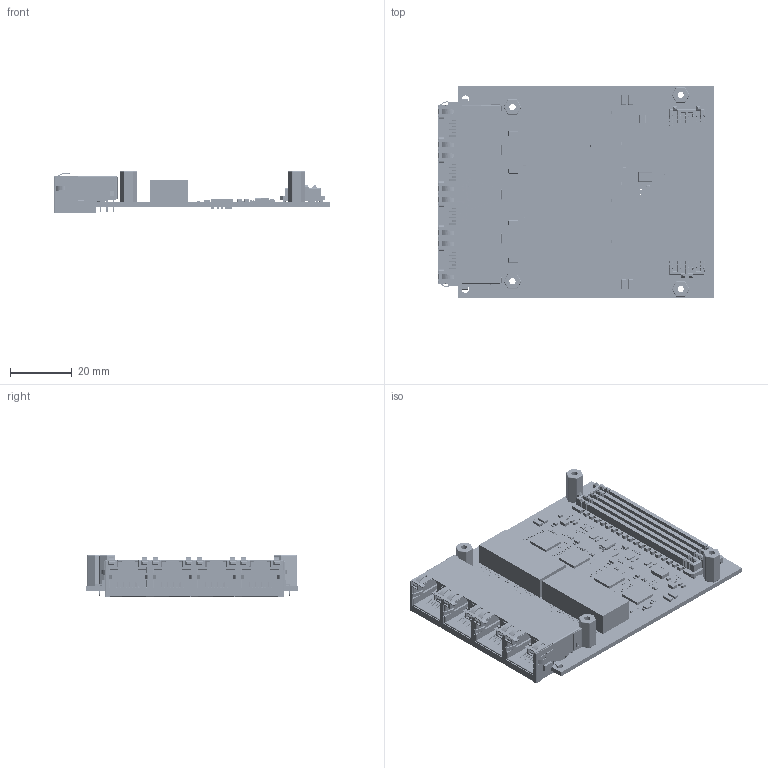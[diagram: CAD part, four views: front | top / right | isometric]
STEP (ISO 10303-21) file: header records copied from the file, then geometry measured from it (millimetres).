
FILE_DESCRIPTION(('Open CASCADE Model'),'2;1');
FILE_NAME('Open CASCADE Shape Model','2025-02-05T12:19:18',('Author'),( 'Open CASCADE'),'Open CASCADE STEP processor 7.5','Open CASCADE 7.5' ,'Unknown');
FILE_SCHEMA(('AUTOMOTIVE_DESIGN { 1 0 10303 214 1 1 1 1 }'));
Length unit declared in the file: millimetre
Products named in the file (301): PCB; Board; Open CASCADE STEP translator 7.5 1.1.1; R95; SW3dPS-1206 SMD Resistor; R6; R94; SW3dPS-0402 SMD Resistor; R93; R92; R63; U13; 7083263872; Extruded; 7083263472; 7083262432; U8; SC70_6; U7; 7083265472; U6; 7083266272; U5; R91; R90; R74; R73; R72; R71; R70; R69; R68; R67; R66; R65; R64; R61; R58; R49; R35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
Assembly tree (682 placements, depth 4):
  PCB
    Board
      Open CASCADE STEP translator 7.5 1.1.1
    R95
      SW3dPS-1206 SMD Resistor
    R6
      SW3dPS-1206 SMD Resistor
    R94
      SW3dPS-0402 SMD Resistor
    R93
      SW3dPS-0402 SMD Resistor
    R92
      SW3dPS-0402 SMD Resistor
    R63
      SW3dPS-0402 SMD Resistor
    U13
      7083263872  x8
        Extruded
      7083263472  x8
        Extruded
      7083262432
        Extruded
    U8
      SC70_6
    U7
      7083265472
        Extruded
    U6
      7083266272
        Extruded
    U5
      7083265472
        Extruded
    R91
      SW3dPS-0402 SMD Resistor
    R90
      SW3dPS-0402 SMD Resistor
    R74
      SW3dPS-0402 SMD Resistor
    R73
      SW3dPS-0402 SMD Resistor
    R72
      SW3dPS-0402 SMD Resistor
    R71
      SW3dPS-0402 SMD Resistor
    R70
      SW3dPS-0402 SMD Resistor
    R69
      SW3dPS-0402 SMD Resistor
    R68
      SW3dPS-0402 SMD Resistor
    R67
      SW3dPS-0402 SMD Resistor
    R66
      SW3dPS-0402 SMD Resistor
    R65
      SW3dPS-0402 SMD Resistor
    R64
      SW3dPS-0402 SMD Resistor
    R61
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Bounding box: 89.75 x 69 x 13.4 mm (x, y, z)
Volume: 23539.3 mm3; surface area: 32885.3 mm2
Topology: 733 solids, 734 shells, 22116 faces, 54043 edges, 33201 vertices
Faces by surface type: plane 14002, cylinder 3943, bspline 2396, sphere 857, torus 492, cone 426
Full cylindrical faces by diameter (mm): 0.16 x1, 0.888 x32, 1.118 x16, 1.3 x2, 1.75 x1, 2.388 x2, 2.7 x4
Entity records: 366297 total; most frequent: CARTESIAN_POINT 98147, ORIENTED_EDGE 56222, DIRECTION 49634, EDGE_CURVE 28111, LINE 19358, VECTOR 19358, VERTEX_POINT 17785, AXIS2_PLACEMENT_3D 15138
